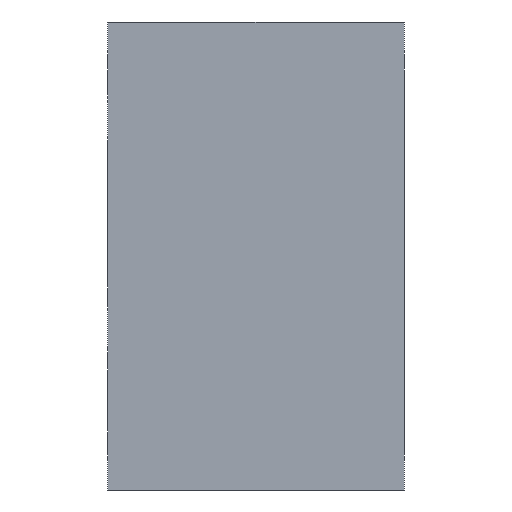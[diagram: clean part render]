
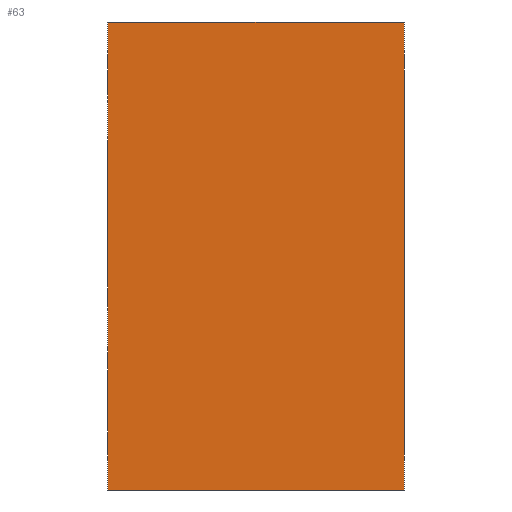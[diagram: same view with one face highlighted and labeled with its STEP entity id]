
A CAD part, left-side view. The second image highlights one B-rep face of the part: STEP entity #63.
In plain terms, the highlighted planar face has unit normal (-1, 0, 0).
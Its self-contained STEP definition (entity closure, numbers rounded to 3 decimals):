
#63 = ADVANCED_FACE ( 'NONE', ( #5838 ), #228, .T. ) ;
#228 = PLANE ( 'NONE',  #1904 ) ;
#237 = DIRECTION ( 'NONE',  ( -1., 0., 0. ) ) ;
#476 = EDGE_CURVE ( 'NONE', #4976, #5109, #6374, .T. ) ;
#1149 = EDGE_CURVE ( 'NONE', #2578, #4976, #8173, .T. ) ;
#1212 = EDGE_CURVE ( 'NONE', #5109, #4075, #5772, .T. ) ;
#1213 = CARTESIAN_POINT ( 'NONE',  ( 0., -19., 30. ) ) ;
#1244 = DIRECTION ( 'NONE',  ( 0., -1., 0. ) ) ;
#1904 = AXIS2_PLACEMENT_3D ( 'NONE', #6499, #237, #8947 ) ;
#1968 = ORIENTED_EDGE ( 'NONE', *, *, #1212, .F. ) ;
#2058 = LINE ( 'NONE', #1213, #8954 ) ;
#2394 = VECTOR ( 'NONE', #5844, 1000. ) ;
#2573 = CARTESIAN_POINT ( 'NONE',  ( 0., 19., 30. ) ) ;
#2578 = VERTEX_POINT ( 'NONE', #4848 ) ;
#2635 = CARTESIAN_POINT ( 'NONE',  ( 0., -19., 30. ) ) ;
#3921 = CARTESIAN_POINT ( 'NONE',  ( 0., -19., -30. ) ) ;
#4075 = VERTEX_POINT ( 'NONE', #2573 ) ;
#4539 = ORIENTED_EDGE ( 'NONE', *, *, #7401, .F. ) ;
#4599 = CARTESIAN_POINT ( 'NONE',  ( 0., 19., -30. ) ) ;
#4848 = CARTESIAN_POINT ( 'NONE',  ( 0., -19., 30. ) ) ;
#4976 = VERTEX_POINT ( 'NONE', #7892 ) ;
#5109 = VERTEX_POINT ( 'NONE', #4599 ) ;
#5772 = LINE ( 'NONE', #5903, #2394 ) ;
#5838 = FACE_OUTER_BOUND ( 'NONE', #5938, .T. ) ;
#5844 = DIRECTION ( 'NONE',  ( 0., 0., 1. ) ) ;
#5903 = CARTESIAN_POINT ( 'NONE',  ( 0., 19., 30. ) ) ;
#5938 = EDGE_LOOP ( 'NONE', ( #6991, #8775, #4539, #1968 ) ) ;
#6319 = VECTOR ( 'NONE', #8060, 1000. ) ;
#6374 = LINE ( 'NONE', #3921, #6503 ) ;
#6499 = CARTESIAN_POINT ( 'NONE',  ( 0., 19., -30. ) ) ;
#6503 = VECTOR ( 'NONE', #8952, 1000. ) ;
#6991 = ORIENTED_EDGE ( 'NONE', *, *, #476, .F. ) ;
#7401 = EDGE_CURVE ( 'NONE', #4075, #2578, #2058, .T. ) ;
#7892 = CARTESIAN_POINT ( 'NONE',  ( 0., -19., -30. ) ) ;
#8060 = DIRECTION ( 'NONE',  ( 0., 0., -1. ) ) ;
#8173 = LINE ( 'NONE', #2635, #6319 ) ;
#8775 = ORIENTED_EDGE ( 'NONE', *, *, #1149, .F. ) ;
#8947 = DIRECTION ( 'NONE',  ( 0., 0., 1. ) ) ;
#8952 = DIRECTION ( 'NONE',  ( 0., 1., 0. ) ) ;
#8954 = VECTOR ( 'NONE', #1244, 1000. ) ;
